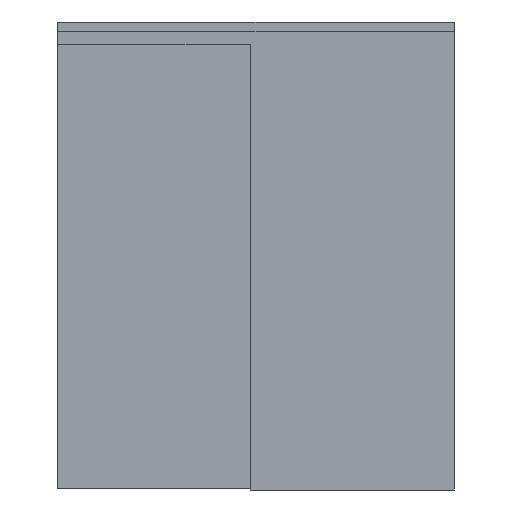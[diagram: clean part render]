
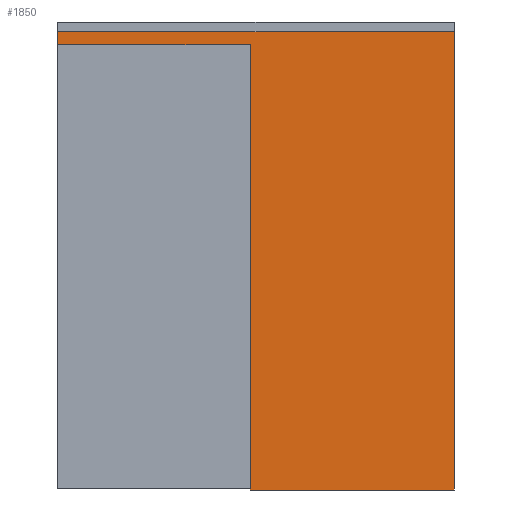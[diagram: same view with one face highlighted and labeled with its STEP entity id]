
A CAD part, front view. The second image highlights one B-rep face of the part: STEP entity #1850.
In plain terms, the highlighted planar face has unit normal (0, -1, 0).
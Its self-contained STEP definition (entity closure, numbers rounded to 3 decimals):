
#1850=ADVANCED_FACE('',(#3751),#3752,.F.);
#3751=FACE_OUTER_BOUND('',#5662,.T.);
#3752=PLANE('',#5663);
#5662=EDGE_LOOP('',(#10619,#10620,#10621,#10622,#10623,#10624));
#5663=AXIS2_PLACEMENT_3D('',#10625,#10626,#10627);
#10619=ORIENTED_EDGE('',*,*,#13260,.T.);
#10620=ORIENTED_EDGE('',*,*,#13250,.F.);
#10621=ORIENTED_EDGE('',*,*,#13254,.F.);
#10622=ORIENTED_EDGE('',*,*,#13258,.T.);
#10623=ORIENTED_EDGE('',*,*,#13261,.F.);
#10624=ORIENTED_EDGE('',*,*,#13262,.F.);
#10625=CARTESIAN_POINT('',(0.0,-44.,2333.0));
#10626=DIRECTION('',(0.0,1.0,-0.0));
#10627=DIRECTION('',(0.0,0.0,1.0));
#13250=EDGE_CURVE('',#16253,#16248,#16255,.T.);
#13254=EDGE_CURVE('',#16259,#16253,#16261,.T.);
#13258=EDGE_CURVE('',#16259,#16265,#16267,.T.);
#13260=EDGE_CURVE('',#16269,#16248,#16270,.T.);
#13261=EDGE_CURVE('',#16271,#16265,#16272,.T.);
#13262=EDGE_CURVE('',#16269,#16271,#16273,.T.);
#16248=VERTEX_POINT('',#20366);
#16253=VERTEX_POINT('',#20373);
#16255=LINE('',#20376,#20377);
#16259=VERTEX_POINT('',#20382);
#16261=LINE('',#20385,#20386);
#16265=VERTEX_POINT('',#20391);
#16267=LINE('',#20394,#20395);
#16269=VERTEX_POINT('',#20397);
#16270=LINE('',#20398,#20399);
#16271=VERTEX_POINT('',#20400);
#16272=LINE('',#20401,#20402);
#16273=LINE('',#20403,#20404);
#20366=CARTESIAN_POINT('',(995.0,-44.,2301.0));
#20373=CARTESIAN_POINT('',(995.0,-44.,0.0));
#20376=CARTESIAN_POINT('',(995.0,-44.,7.0));
#20377=VECTOR('',#23238,1.0);
#20382=CARTESIAN_POINT('',(2050.0,-44.,0.0));
#20385=CARTESIAN_POINT('',(1327.5,-44.,0.0));
#20386=VECTOR('',#23241,1.0);
#20391=CARTESIAN_POINT('',(2050.0,-44.,2368.0));
#20394=CARTESIAN_POINT('',(2050.0,-44.,7.0));
#20395=VECTOR('',#23244,1.0);
#20397=CARTESIAN_POINT('',(0.0,-44.,2301.0));
#20398=CARTESIAN_POINT('',(0.0,-44.,2301.0));
#20399=VECTOR('',#23245,1.0);
#20400=CARTESIAN_POINT('',(0.0,-44.,2368.0));
#20401=CARTESIAN_POINT('',(1270.0,-44.,2368.0));
#20402=VECTOR('',#23246,1.0);
#20403=CARTESIAN_POINT('',(0.0,-44.,2301.0));
#20404=VECTOR('',#23247,1.0);
#23238=DIRECTION('',(0.0,0.0,1.0));
#23241=DIRECTION('',(-1.0,0.0,0.0));
#23244=DIRECTION('',(0.0,0.0,1.0));
#23245=DIRECTION('',(1.0,0.0,0.0));
#23246=DIRECTION('',(1.0,0.0,0.0));
#23247=DIRECTION('',(0.0,0.0,1.0));
